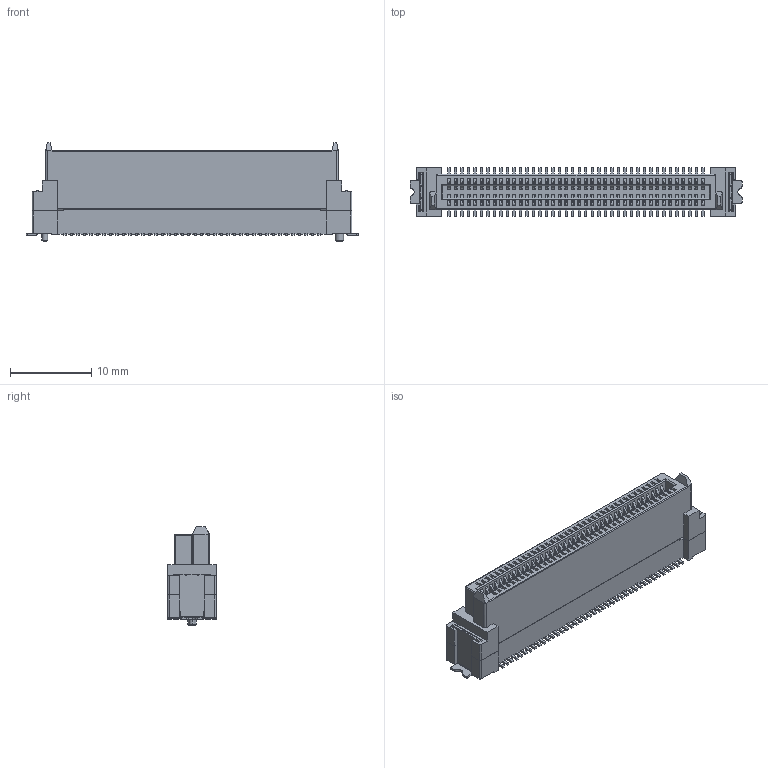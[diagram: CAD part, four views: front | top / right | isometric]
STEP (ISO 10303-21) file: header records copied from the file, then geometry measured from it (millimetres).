
FILE_DESCRIPTION(('CATIA V5 STEP Exchange'),'2;1');
FILE_NAME('F:\黄富鸿\板对板\PBB08D\母座\H10.4\HC-PBB08D-1-80-F-H10.4-XX-R-P-06 (BTB0.8 单槽 D型母座 立贴 带柱 编带)-HCTL.stp','2026-02-04T08:26:32+00:00',('none'),('none'),'CATIA Version 5 Release 20 GA (IN-10)','CATIA V5 STEP AP203','none');
FILE_SCHEMA(('CONFIG_CONTROL_DESIGN'));
Products named in the file (1): Part1
Bounding box: 40.8 x 6 x 12.15 mm (x, y, z)
Volume: 1038.8 mm3; surface area: 5102.6 mm2
Topology: 84 solids, 84 shells, 4149 faces, 12320 edges, 8100 vertices
Faces by surface type: plane 3129, cylinder 1014, cone 4, torus 2
Entity records: 128721 total; most frequent: ORIENTED_EDGE 24640, CARTESIAN_POINT 23197, DIRECTION 17656, EDGE_CURVE 12320, VECTOR 10258, LINE 10258, VERTEX_POINT 8100, AXIS2_PLACEMENT_3D 4711
